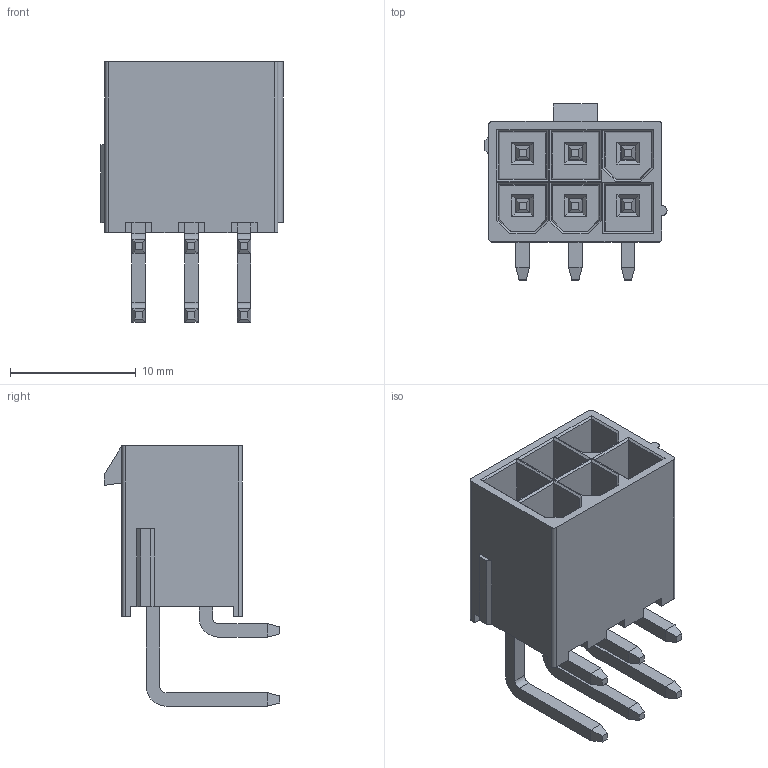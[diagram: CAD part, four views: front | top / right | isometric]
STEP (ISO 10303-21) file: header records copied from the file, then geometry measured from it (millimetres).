
FILE_DESCRIPTION((''),'2;1');
FILE_NAME('S-57953-006XX-XXX_ASM','2018-05-08T',('d33379'),(''),'CREO PARAMETRIC BY PTC INC, 2014500','CREO PARAMETRIC BY PTC INC, 2014500','');
FILE_SCHEMA(('CONFIG_CONTROL_DESIGN'));
Length unit declared in the file: millimetre
Products named in the file (1): S-57953-006XX-XXX_ASM
Bounding box: 14.5 x 14 x 20.73 mm (x, y, z)
Volume: 964 mm3; surface area: 2416.8 mm2
Topology: 1 solids, 1 shells, 413 faces, 1083 edges, 700 vertices
Faces by surface type: plane 372, cylinder 41
Entity records: 12474 total; most frequent: CARTESIAN_POINT 2188, ORIENTED_EDGE 2142, DIRECTION 2013, EDGE_CURVE 1071, VECTOR 987, LINE 987, VERTEX_POINT 688, AXIS2_PLACEMENT_3D 513
